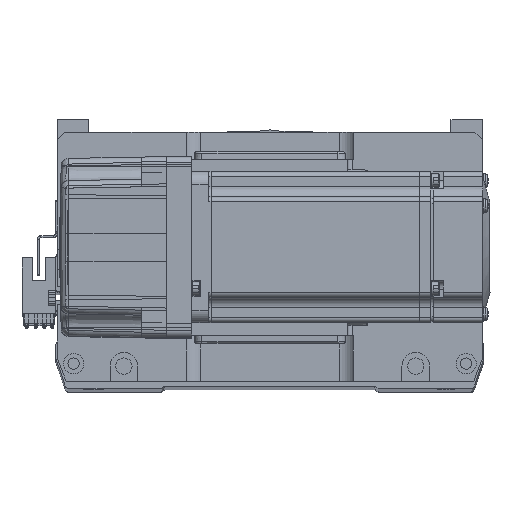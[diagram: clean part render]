
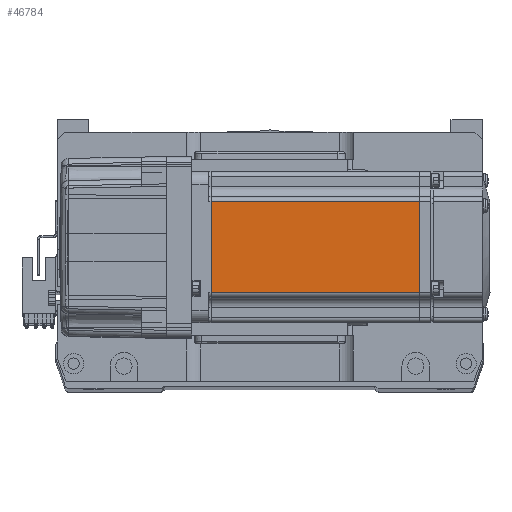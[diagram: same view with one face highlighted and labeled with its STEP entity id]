
A CAD part, top view. The second image highlights one B-rep face of the part: STEP entity #46784.
In plain terms, the highlighted planar face has unit normal (0, 0, 1) as drawn and (0, -1, 0) by its records, which use the part's own axes.
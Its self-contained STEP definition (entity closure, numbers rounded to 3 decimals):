
#388 = VECTOR ( 'NONE', #61790, 1000. ) ;
#2126 = ORIENTED_EDGE ( 'NONE', *, *, #54038, .T. ) ;
#3007 = EDGE_CURVE ( 'NONE', #31067, #15527, #20436, .T. ) ;
#10853 = EDGE_CURVE ( 'NONE', #36975, #31067, #60686, .T. ) ;
#13171 = VECTOR ( 'NONE', #37999, 1000. ) ;
#14586 = DIRECTION ( 'NONE',  ( 1., 0., 0. ) ) ;
#15527 = VERTEX_POINT ( 'NONE', #24132 ) ;
#15906 = VECTOR ( 'NONE', #26805, 1000. ) ;
#19823 = CARTESIAN_POINT ( 'NONE',  ( -6.5, -30., -18. ) ) ;
#20436 = LINE ( 'NONE', #32416, #15906 ) ;
#24132 = CARTESIAN_POINT ( 'NONE',  ( -7.75, -30., 18. ) ) ;
#26218 = EDGE_LOOP ( 'NONE', ( #47006, #43433, #2126, #50515 ) ) ;
#26805 = DIRECTION ( 'NONE',  ( 0., 0., 1. ) ) ;
#26809 = CARTESIAN_POINT ( 'NONE',  ( -7.75, -30., -18. ) ) ;
#27613 = CARTESIAN_POINT ( 'NONE',  ( -6.5, -30., -25. ) ) ;
#31067 = VERTEX_POINT ( 'NONE', #26809 ) ;
#32416 = CARTESIAN_POINT ( 'NONE',  ( -7.75, -30., -25. ) ) ;
#33563 = CARTESIAN_POINT ( 'NONE',  ( -6.5, -30., 18. ) ) ;
#36839 = FACE_OUTER_BOUND ( 'NONE', #26218, .T. ) ;
#36975 = VERTEX_POINT ( 'NONE', #57007 ) ;
#37166 = LINE ( 'NONE', #52143, #388 ) ;
#37545 = CARTESIAN_POINT ( 'NONE',  ( -90.45, -30., 18. ) ) ;
#37999 = DIRECTION ( 'NONE',  ( -1., 0., 0. ) ) ;
#43433 = ORIENTED_EDGE ( 'NONE', *, *, #54082, .T. ) ;
#44956 = AXIS2_PLACEMENT_3D ( 'NONE', #27613, #46530, #56436 ) ;
#46376 = VECTOR ( 'NONE', #14586, 1000. ) ;
#46530 = DIRECTION ( 'NONE',  ( 0., -1., 0. ) ) ;
#46784 = ADVANCED_FACE ( 'NONE', ( #36839 ), #51376, .T. ) ;
#47006 = ORIENTED_EDGE ( 'NONE', *, *, #3007, .T. ) ;
#47936 = VERTEX_POINT ( 'NONE', #37545 ) ;
#50515 = ORIENTED_EDGE ( 'NONE', *, *, #10853, .T. ) ;
#51376 = PLANE ( 'NONE',  #44956 ) ;
#52143 = CARTESIAN_POINT ( 'NONE',  ( -90.45, -30., -25. ) ) ;
#54038 = EDGE_CURVE ( 'NONE', #47936, #36975, #37166, .T. ) ;
#54082 = EDGE_CURVE ( 'NONE', #15527, #47936, #56741, .T. ) ;
#56436 = DIRECTION ( 'NONE',  ( 0., 0., -1. ) ) ;
#56741 = LINE ( 'NONE', #33563, #13171 ) ;
#57007 = CARTESIAN_POINT ( 'NONE',  ( -90.45, -30., -18. ) ) ;
#60686 = LINE ( 'NONE', #19823, #46376 ) ;
#61790 = DIRECTION ( 'NONE',  ( 0., 0., -1. ) ) ;
